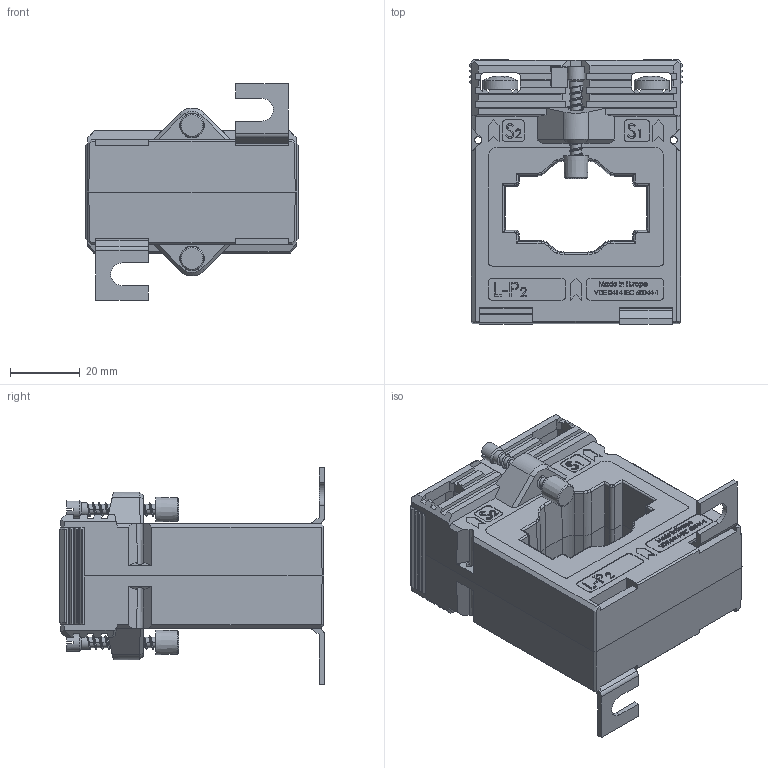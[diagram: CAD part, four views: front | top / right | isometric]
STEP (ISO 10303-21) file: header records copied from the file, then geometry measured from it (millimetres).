
FILE_DESCRIPTION(/* description */ (''),/* implementation_level */ '2;1');
FILE_NAME(/* name */ 'ASK41.3.stp',/* time_stamp */ '2024-03-04T12:17:49+01:00',/* author */ ('JDI'),/* organization */ (''),/* preprocessor_version */ 'ST-DEVELOPER v19.2',/* originating_system */ 'Autodesk Inventor 2023',/* authorisation */ '');
FILE_SCHEMA (('AUTOMOTIVE_DESIGN { 1 0 10303 214 3 1 1 }'));
Products named in the file (1): 103161.3_Simplify_1
Bounding box: 61 x 75.6 x 62 mm (x, y, z)
Volume: 105496.5 mm3; surface area: 29625.4 mm2
Topology: 1 solids, 1 shells, 1913 faces, 5117 edges, 3290 vertices
Faces by surface type: plane 1297, bspline 366, cylinder 196, cone 44, sphere 6, torus 4
Full cylindrical faces by diameter (mm): 2.95 x2, 3 x26, 3.8 x4, 4 x12, 4.1 x2, 5 x2, 10 x4
Entity records: 83155 total; most frequent: CARTESIAN_POINT 35876, ORIENTED_EDGE 10234, DIRECTION 7975, EDGE_CURVE 5117, LINE 3753, VECTOR 3753, VERTEX_POINT 3290, AXIS2_PLACEMENT_3D 2111
